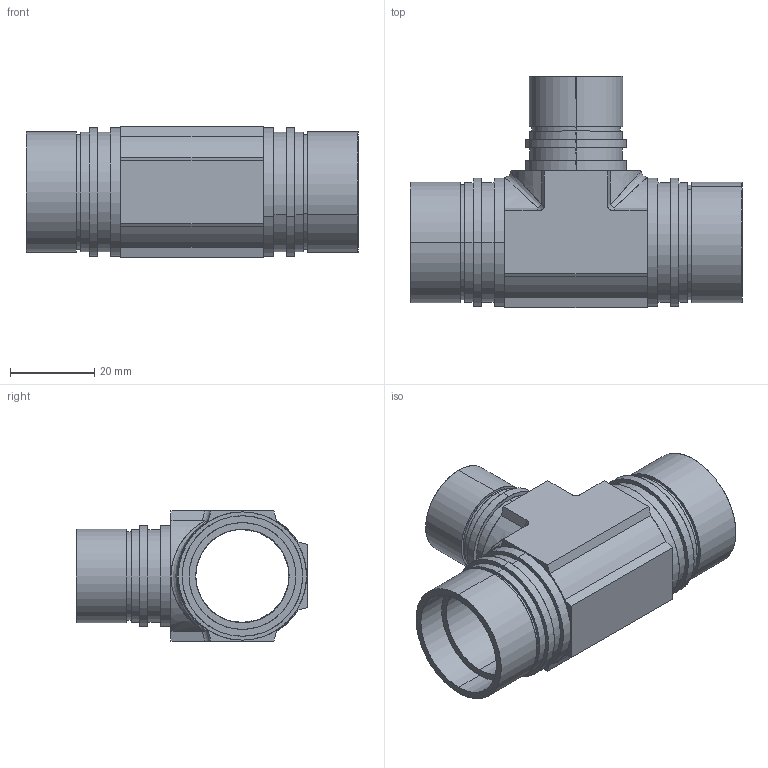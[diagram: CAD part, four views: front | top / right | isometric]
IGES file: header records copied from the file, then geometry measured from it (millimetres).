
Start section: SolidWorks IGES file using analytic representation for surfaces
Global section: file name: Part2^70-25.4RUBT19.05-P.IGS; native system: SolidWorks 2012; preprocessor: SolidWorks 2012; author: harada; date: 130905.130921; units: millimetre
Bounding box: 79 x 55 x 31 mm (x, y, z)
Surface area: 18400.4 mm2 (no closed solid volume)
Topology: 0 solids, 0 shells, 111 faces, 2926 edges, 2926 vertices
Faces by surface type: revolution 67, bspline 44
